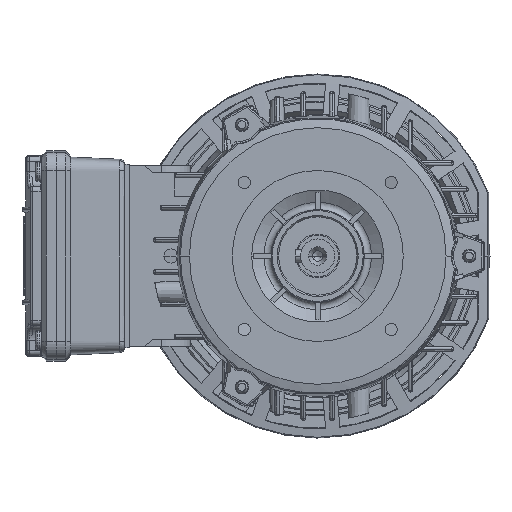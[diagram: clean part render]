
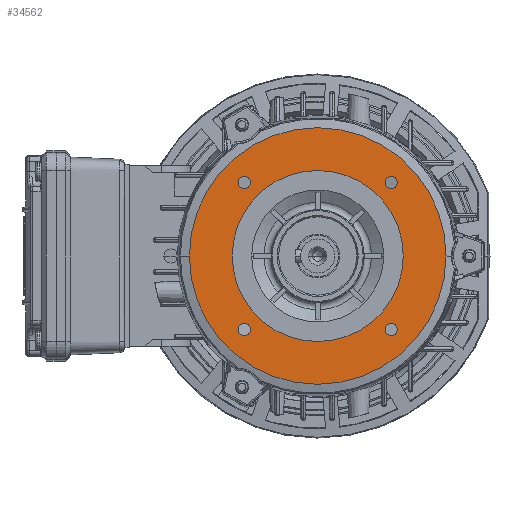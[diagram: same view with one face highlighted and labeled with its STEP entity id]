
A CAD part, left-side view. The second image highlights one B-rep face of the part: STEP entity #34562.
In plain terms, the highlighted planar face has unit normal (-1, 0, 0) as drawn and (0, -1, 0) by its records, which use the part's own axes.
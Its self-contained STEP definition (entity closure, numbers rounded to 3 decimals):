
#168 = DIRECTION ( 'NONE',  ( 0., 0., 1. ) ) ;
#595 = DIRECTION ( 'NONE',  ( 0., 1., 0. ) ) ;
#923 = CARTESIAN_POINT ( 'NONE',  ( -30.052, 2.5, 30.052 ) ) ;
#1710 = ORIENTED_EDGE ( 'NONE', *, *, #50922, .T. ) ;
#1872 = CARTESIAN_POINT ( 'NONE',  ( -30.052, 2.5, -32.552 ) ) ;
#2282 = CARTESIAN_POINT ( 'NONE',  ( 30.052, 2.5, -27.552 ) ) ;
#3448 = CIRCLE ( 'NONE', #62237, 2.5 ) ;
#3965 = ORIENTED_EDGE ( 'NONE', *, *, #42145, .T. ) ;
#4099 = DIRECTION ( 'NONE',  ( 0., 1., 0. ) ) ;
#4104 = CARTESIAN_POINT ( 'NONE',  ( 30.052, 2.5, -30.052 ) ) ;
#6397 = EDGE_LOOP ( 'NONE', ( #12752, #9258 ) ) ;
#8165 = EDGE_CURVE ( 'NONE', #12512, #76906, #42489, .T. ) ;
#8701 = DIRECTION ( 'NONE',  ( 0., 0., 1. ) ) ;
#9258 = ORIENTED_EDGE ( 'NONE', *, *, #58988, .F. ) ;
#9370 = FACE_BOUND ( 'NONE', #19052, .T. ) ;
#9383 = AXIS2_PLACEMENT_3D ( 'NONE', #50468, #4099, #58306 ) ;
#10914 = CARTESIAN_POINT ( 'NONE',  ( 0., 2.5, -52.5 ) ) ;
#11796 = FACE_BOUND ( 'NONE', #32728, .T. ) ;
#11878 = DIRECTION ( 'NONE',  ( 0., 0., 1. ) ) ;
#12082 = AXIS2_PLACEMENT_3D ( 'NONE', #90830, #44181, #98648 ) ;
#12168 = CARTESIAN_POINT ( 'NONE',  ( 30.052, 2.5, 27.552 ) ) ;
#12461 = AXIS2_PLACEMENT_3D ( 'NONE', #4104, #58310, #11878 ) ;
#12512 = VERTEX_POINT ( 'NONE', #47836 ) ;
#12752 = ORIENTED_EDGE ( 'NONE', *, *, #28695, .F. ) ;
#17899 = CARTESIAN_POINT ( 'NONE',  ( -30.052, 2.5, 32.552 ) ) ;
#19052 = EDGE_LOOP ( 'NONE', ( #51005, #30356 ) ) ;
#20696 = CARTESIAN_POINT ( 'NONE',  ( 0., 2.5, -35. ) ) ;
#21557 = CIRCLE ( 'NONE', #38146, 2.5 ) ;
#22222 = EDGE_CURVE ( 'NONE', #42545, #51718, #21557, .T. ) ;
#22233 = CARTESIAN_POINT ( 'NONE',  ( 30.052, 2.5, 30.052 ) ) ;
#22886 = AXIS2_PLACEMENT_3D ( 'NONE', #22233, #76587, #29957 ) ;
#22947 = DIRECTION ( 'NONE',  ( 0., 1., 0. ) ) ;
#22988 = ORIENTED_EDGE ( 'NONE', *, *, #33538, .T. ) ;
#23338 = AXIS2_PLACEMENT_3D ( 'NONE', #91584, #44920, #99385 ) ;
#24168 = ORIENTED_EDGE ( 'NONE', *, *, #8165, .T. ) ;
#24761 = AXIS2_PLACEMENT_3D ( 'NONE', #81447, #34848, #89278 ) ;
#25162 = CIRCLE ( 'NONE', #9383, 2.5 ) ;
#25817 = AXIS2_PLACEMENT_3D ( 'NONE', #85162, #38524, #92980 ) ;
#27235 = DIRECTION ( 'NONE',  ( 0., 1., 0. ) ) ;
#27566 = CARTESIAN_POINT ( 'NONE',  ( 0., 2.5, 0. ) ) ;
#27695 = EDGE_CURVE ( 'NONE', #72033, #39255, #25162, .T. ) ;
#27752 = CIRCLE ( 'NONE', #23338, 52.5 ) ;
#28695 = EDGE_CURVE ( 'NONE', #50075, #92977, #39534, .T. ) ;
#29038 = EDGE_LOOP ( 'NONE', ( #53363, #22988 ) ) ;
#29957 = DIRECTION ( 'NONE',  ( 0., 0., 1. ) ) ;
#30002 = FACE_OUTER_BOUND ( 'NONE', #6397, .T. ) ;
#30356 = ORIENTED_EDGE ( 'NONE', *, *, #76049, .T. ) ;
#32728 = EDGE_LOOP ( 'NONE', ( #3965, #24168 ) ) ;
#33538 = EDGE_CURVE ( 'NONE', #39255, #72033, #41047, .T. ) ;
#34562 = ADVANCED_FACE ( 'NONE', ( #71326, #11796, #73800, #55446, #30002, #9370 ), #46963, .F. ) ;
#34848 = DIRECTION ( 'NONE',  ( 0., 1., 0. ) ) ;
#35324 = DIRECTION ( 'NONE',  ( 0., 0., 1. ) ) ;
#35401 = CARTESIAN_POINT ( 'NONE',  ( 0., 2.5, 35. ) ) ;
#35874 = EDGE_LOOP ( 'NONE', ( #1710, #47837 ) ) ;
#38146 = AXIS2_PLACEMENT_3D ( 'NONE', #69434, #22947, #77291 ) ;
#38524 = DIRECTION ( 'NONE',  ( 0., 1., 0. ) ) ;
#39255 = VERTEX_POINT ( 'NONE', #12168 ) ;
#39534 = CIRCLE ( 'NONE', #12082, 52.5 ) ;
#41047 = CIRCLE ( 'NONE', #22886, 2.5 ) ;
#42145 = EDGE_CURVE ( 'NONE', #76906, #12512, #97139, .T. ) ;
#42489 = CIRCLE ( 'NONE', #65862, 2.5 ) ;
#42545 = VERTEX_POINT ( 'NONE', #17899 ) ;
#44181 = DIRECTION ( 'NONE',  ( 0., 1., 0. ) ) ;
#44920 = DIRECTION ( 'NONE',  ( 0., 1., 0. ) ) ;
#46516 = DIRECTION ( 'NONE',  ( 0., 1., 0. ) ) ;
#46963 = PLANE ( 'NONE',  #56629 ) ;
#47049 = CIRCLE ( 'NONE', #25817, 35. ) ;
#47112 = CARTESIAN_POINT ( 'NONE',  ( 30.052, 2.5, 32.552 ) ) ;
#47836 = CARTESIAN_POINT ( 'NONE',  ( 30.052, 2.5, -32.552 ) ) ;
#47837 = ORIENTED_EDGE ( 'NONE', *, *, #82379, .T. ) ;
#49164 = CIRCLE ( 'NONE', #67343, 35. ) ;
#50075 = VERTEX_POINT ( 'NONE', #58838 ) ;
#50468 = CARTESIAN_POINT ( 'NONE',  ( 30.052, 2.5, 30.052 ) ) ;
#50922 = EDGE_CURVE ( 'NONE', #94505, #99488, #78645, .T. ) ;
#51005 = ORIENTED_EDGE ( 'NONE', *, *, #82394, .T. ) ;
#51718 = VERTEX_POINT ( 'NONE', #65242 ) ;
#53363 = ORIENTED_EDGE ( 'NONE', *, *, #27695, .T. ) ;
#54811 = DIRECTION ( 'NONE',  ( 0., 0., 1. ) ) ;
#55130 = DIRECTION ( 'NONE',  ( 0., 1., 0. ) ) ;
#55446 = FACE_BOUND ( 'NONE', #67205, .T. ) ;
#56629 = AXIS2_PLACEMENT_3D ( 'NONE', #77712, #595, #54811 ) ;
#56828 = AXIS2_PLACEMENT_3D ( 'NONE', #73782, #27235, #81579 ) ;
#58306 = DIRECTION ( 'NONE',  ( 0., 0., 1. ) ) ;
#58310 = DIRECTION ( 'NONE',  ( 0., 1., 0. ) ) ;
#58838 = CARTESIAN_POINT ( 'NONE',  ( 0., 2.5, 52.5 ) ) ;
#58988 = EDGE_CURVE ( 'NONE', #92977, #50075, #27752, .T. ) ;
#62237 = AXIS2_PLACEMENT_3D ( 'NONE', #923, #55130, #8701 ) ;
#65242 = CARTESIAN_POINT ( 'NONE',  ( -30.052, 2.5, 27.552 ) ) ;
#65862 = AXIS2_PLACEMENT_3D ( 'NONE', #93196, #46516, #168 ) ;
#67205 = EDGE_LOOP ( 'NONE', ( #78375, #99191 ) ) ;
#67343 = AXIS2_PLACEMENT_3D ( 'NONE', #27566, #81929, #35324 ) ;
#69434 = CARTESIAN_POINT ( 'NONE',  ( -30.052, 2.5, 30.052 ) ) ;
#71326 = FACE_BOUND ( 'NONE', #35874, .T. ) ;
#72033 = VERTEX_POINT ( 'NONE', #47112 ) ;
#72411 = CIRCLE ( 'NONE', #56828, 2.5 ) ;
#73782 = CARTESIAN_POINT ( 'NONE',  ( -30.052, 2.5, -30.052 ) ) ;
#73800 = FACE_BOUND ( 'NONE', #29038, .T. ) ;
#76049 = EDGE_CURVE ( 'NONE', #81404, #81950, #47049, .T. ) ;
#76139 = EDGE_CURVE ( 'NONE', #51718, #42545, #3448, .T. ) ;
#76587 = DIRECTION ( 'NONE',  ( 0., 1., 0. ) ) ;
#76906 = VERTEX_POINT ( 'NONE', #2282 ) ;
#77291 = DIRECTION ( 'NONE',  ( 0., 0., 1. ) ) ;
#77712 = CARTESIAN_POINT ( 'NONE',  ( 35., 2.5, 0. ) ) ;
#78375 = ORIENTED_EDGE ( 'NONE', *, *, #22222, .T. ) ;
#78645 = CIRCLE ( 'NONE', #24761, 2.5 ) ;
#78815 = CARTESIAN_POINT ( 'NONE',  ( -30.052, 2.5, -27.552 ) ) ;
#81404 = VERTEX_POINT ( 'NONE', #20696 ) ;
#81447 = CARTESIAN_POINT ( 'NONE',  ( -30.052, 2.5, -30.052 ) ) ;
#81579 = DIRECTION ( 'NONE',  ( 0., 0., 1. ) ) ;
#81929 = DIRECTION ( 'NONE',  ( 0., 1., 0. ) ) ;
#81950 = VERTEX_POINT ( 'NONE', #35401 ) ;
#82379 = EDGE_CURVE ( 'NONE', #99488, #94505, #72411, .T. ) ;
#82394 = EDGE_CURVE ( 'NONE', #81950, #81404, #49164, .T. ) ;
#85162 = CARTESIAN_POINT ( 'NONE',  ( 0., 2.5, 0. ) ) ;
#89278 = DIRECTION ( 'NONE',  ( 0., 0., 1. ) ) ;
#90830 = CARTESIAN_POINT ( 'NONE',  ( 0., 2.5, 0. ) ) ;
#91584 = CARTESIAN_POINT ( 'NONE',  ( 0., 2.5, 0. ) ) ;
#92977 = VERTEX_POINT ( 'NONE', #10914 ) ;
#92980 = DIRECTION ( 'NONE',  ( 0., 0., 1. ) ) ;
#93196 = CARTESIAN_POINT ( 'NONE',  ( 30.052, 2.5, -30.052 ) ) ;
#94505 = VERTEX_POINT ( 'NONE', #78815 ) ;
#97139 = CIRCLE ( 'NONE', #12461, 2.5 ) ;
#98648 = DIRECTION ( 'NONE',  ( 0., 0., 1. ) ) ;
#99191 = ORIENTED_EDGE ( 'NONE', *, *, #76139, .T. ) ;
#99385 = DIRECTION ( 'NONE',  ( 0., 0., 1. ) ) ;
#99488 = VERTEX_POINT ( 'NONE', #1872 ) ;
